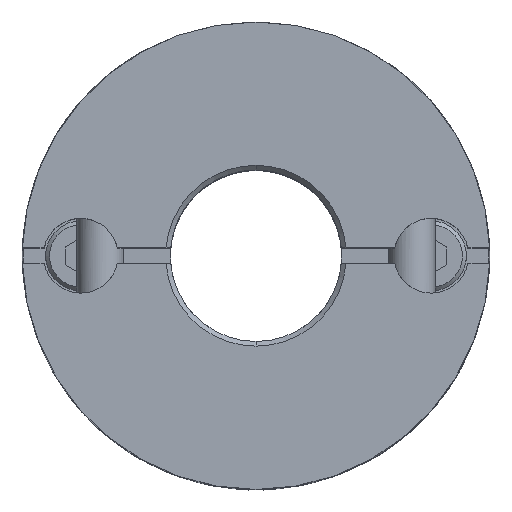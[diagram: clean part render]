
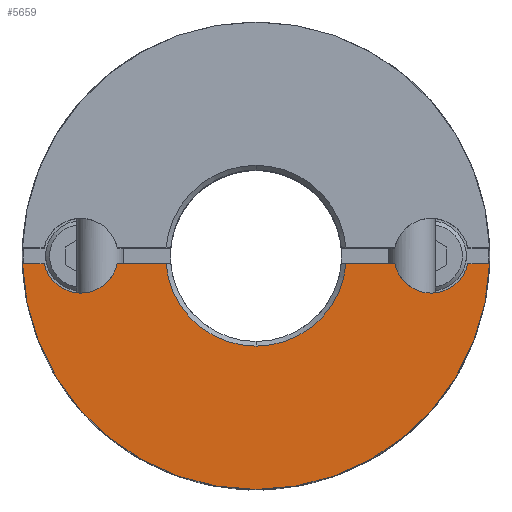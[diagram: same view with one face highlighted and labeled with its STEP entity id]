
A CAD part, top view. The second image highlights one B-rep face of the part: STEP entity #5659.
In plain terms, the highlighted planar face has unit normal (0, 0, 1).
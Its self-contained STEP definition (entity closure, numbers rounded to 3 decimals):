
#2176=CARTESIAN_POINT('',(0.,-15.0,11.8));
#2177=VERTEX_POINT('',#2176);
#2184=CARTESIAN_POINT('',(-14.992,-0.5,11.8));
#2185=VERTEX_POINT('',#2184);
#2186=CARTESIAN_POINT('',(0.0,0.0,11.8));
#2187=DIRECTION('',(0.0,0.0,-1.0));
#2188=DIRECTION('',(0.0,1.0,0.0));
#2189=AXIS2_PLACEMENT_3D('',#2186,#2187,#2188);
#2190=CIRCLE('',#2189,15.0);
#2191=EDGE_CURVE('',#2177,#2185,#2190,.T.);
#2582=CARTESIAN_POINT('',(0.,-5.8,11.8));
#2583=VERTEX_POINT('',#2582);
#2591=CARTESIAN_POINT('',(-5.778,-0.5,11.8));
#2592=VERTEX_POINT('',#2591);
#2606=CARTESIAN_POINT('',(0.0,0.0,11.8));
#2607=DIRECTION('',(0.0,0.0,1.0));
#2608=DIRECTION('',(0.0,-1.0,0.0));
#2609=AXIS2_PLACEMENT_3D('',#2606,#2607,#2608);
#2610=CIRCLE('',#2609,5.8);
#2611=EDGE_CURVE('',#2592,#2583,#2610,.T.);
#2984=CARTESIAN_POINT('',(-11.25,-2.4,11.8));
#2985=VERTEX_POINT('',#2984);
#2992=CARTESIAN_POINT('',(-8.903,-0.5,11.8));
#2993=VERTEX_POINT('',#2992);
#2994=CARTESIAN_POINT('',(-11.25,0.,11.8));
#2995=DIRECTION('',(0.0,0.0,-1.0));
#2996=DIRECTION('',(0.0,1.0,0.0));
#2997=AXIS2_PLACEMENT_3D('',#2994,#2995,#2996);
#2998=CIRCLE('',#2997,2.4);
#2999=EDGE_CURVE('',#2993,#2985,#2998,.T.);
#3059=CARTESIAN_POINT('',(-13.597,-0.5,11.8));
#3060=VERTEX_POINT('',#3059);
#3067=CARTESIAN_POINT('',(-11.25,0.,11.8));
#3068=DIRECTION('',(0.0,0.0,-1.0));
#3069=DIRECTION('',(0.0,1.0,0.0));
#3070=AXIS2_PLACEMENT_3D('',#3067,#3068,#3069);
#3071=CIRCLE('',#3070,2.4);
#3072=EDGE_CURVE('',#2985,#3060,#3071,.T.);
#3277=CARTESIAN_POINT('',(11.25,-2.4,11.8));
#3278=VERTEX_POINT('',#3277);
#3310=CARTESIAN_POINT('',(8.903,-0.5,11.8));
#3311=VERTEX_POINT('',#3310);
#3318=CARTESIAN_POINT('',(11.25,0.,11.8));
#3319=DIRECTION('',(0.0,0.0,-1.0));
#3320=DIRECTION('',(0.0,1.0,0.0));
#3321=AXIS2_PLACEMENT_3D('',#3318,#3319,#3320);
#3322=CIRCLE('',#3321,2.4);
#3323=EDGE_CURVE('',#3278,#3311,#3322,.T.);
#4401=CARTESIAN_POINT('',(13.597,-0.5,11.8));
#4402=VERTEX_POINT('',#4401);
#4403=CARTESIAN_POINT('',(11.25,0.,11.8));
#4404=DIRECTION('',(0.0,0.0,-1.0));
#4405=DIRECTION('',(0.0,1.0,0.0));
#4406=AXIS2_PLACEMENT_3D('',#4403,#4404,#4405);
#4407=CIRCLE('',#4406,2.4);
#4408=EDGE_CURVE('',#4402,#3278,#4407,.T.);
#4694=CARTESIAN_POINT('',(-5.778,-0.5,11.8));
#4695=DIRECTION('',(-1.0,0.0,0.0));
#4696=VECTOR('',#4695,3.124);
#4697=LINE('',#4694,#4696);
#4698=EDGE_CURVE('',#2592,#2993,#4697,.T.);
#4811=CARTESIAN_POINT('',(5.778,-0.5,11.8));
#4812=VERTEX_POINT('',#4811);
#4826=CARTESIAN_POINT('',(8.903,-0.5,11.8));
#4827=DIRECTION('',(-1.0,0.0,0.0));
#4828=VECTOR('',#4827,3.124);
#4829=LINE('',#4826,#4828);
#4830=EDGE_CURVE('',#3311,#4812,#4829,.T.);
#5406=CARTESIAN_POINT('',(14.992,-0.5,11.8));
#5407=VERTEX_POINT('',#5406);
#5408=CARTESIAN_POINT('',(14.992,-0.5,11.8));
#5409=DIRECTION('',(-1.0,0.0,0.0));
#5410=VECTOR('',#5409,1.394);
#5411=LINE('',#5408,#5410);
#5412=EDGE_CURVE('',#5407,#4402,#5411,.T.);
#5526=CARTESIAN_POINT('',(-13.597,-0.5,11.8));
#5527=DIRECTION('',(-1.0,0.0,0.0));
#5528=VECTOR('',#5527,1.394);
#5529=LINE('',#5526,#5528);
#5530=EDGE_CURVE('',#3060,#2185,#5529,.T.);
#5628=CARTESIAN_POINT('',(0.,1.364,11.8));
#5629=DIRECTION('',(0.0,0.0,1.0));
#5630=DIRECTION('',(0.0,1.0,0.0));
#5631=AXIS2_PLACEMENT_3D('',#5628,#5629,#5630);
#5632=PLANE('',#5631);
#5633=ORIENTED_EDGE('',*,*,#4408,.T.);
#5634=ORIENTED_EDGE('',*,*,#3323,.T.);
#5635=ORIENTED_EDGE('',*,*,#4830,.T.);
#5636=CARTESIAN_POINT('',(0.0,0.0,11.8));
#5637=DIRECTION('',(0.0,0.0,1.0));
#5638=DIRECTION('',(0.0,-1.0,0.0));
#5639=AXIS2_PLACEMENT_3D('',#5636,#5637,#5638);
#5640=CIRCLE('',#5639,5.8);
#5641=EDGE_CURVE('',#2583,#4812,#5640,.T.);
#5642=ORIENTED_EDGE('',*,*,#5641,.F.);
#5643=ORIENTED_EDGE('',*,*,#2611,.F.);
#5644=ORIENTED_EDGE('',*,*,#4698,.T.);
#5645=ORIENTED_EDGE('',*,*,#2999,.T.);
#5646=ORIENTED_EDGE('',*,*,#3072,.T.);
#5647=ORIENTED_EDGE('',*,*,#5530,.T.);
#5648=ORIENTED_EDGE('',*,*,#2191,.F.);
#5649=CARTESIAN_POINT('',(0.0,0.0,11.8));
#5650=DIRECTION('',(0.0,0.0,-1.0));
#5651=DIRECTION('',(0.0,1.0,0.0));
#5652=AXIS2_PLACEMENT_3D('',#5649,#5650,#5651);
#5653=CIRCLE('',#5652,15.0);
#5654=EDGE_CURVE('',#5407,#2177,#5653,.T.);
#5655=ORIENTED_EDGE('',*,*,#5654,.F.);
#5656=ORIENTED_EDGE('',*,*,#5412,.T.);
#5657=EDGE_LOOP('',(#5633,#5634,#5635,#5642,#5643,#5644,#5645,#5646,#5647,#5648,#5655,#5656));
#5658=FACE_OUTER_BOUND('',#5657,.T.);
#5659=ADVANCED_FACE('',(#5658),#5632,.T.);
